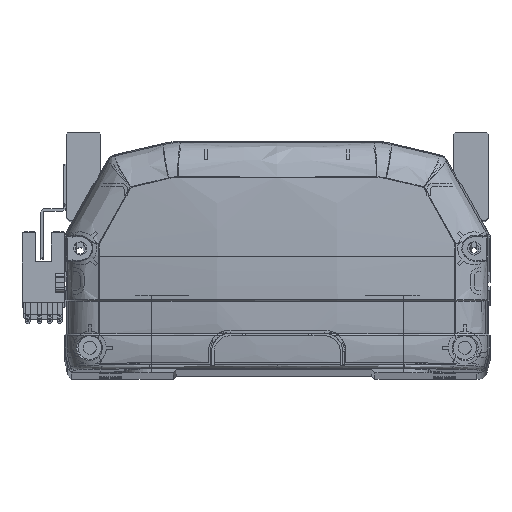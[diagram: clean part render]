
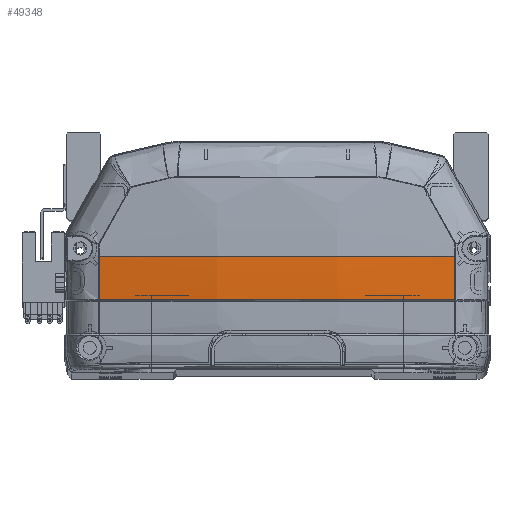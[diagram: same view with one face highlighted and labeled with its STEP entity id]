
A CAD part, top view. The second image highlights one B-rep face of the part: STEP entity #49348.
In plain terms, the highlighted free-form (B-spline) face has degree [3, 3] with [4, 4] control points.
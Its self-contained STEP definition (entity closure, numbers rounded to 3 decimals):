
#2270 = EDGE_CURVE ( 'NONE', #24006, #45317, #10112, .T. ) ;
#2620 = CARTESIAN_POINT ( 'NONE',  ( 47.432, 22.225, -6.377 ) ) ;
#2735 = ORIENTED_EDGE ( 'NONE', *, *, #53510, .F. ) ;
#3050 = CARTESIAN_POINT ( 'NONE',  ( 57.335, 26.762, -4.928 ) ) ;
#3831 = CARTESIAN_POINT ( 'NONE',  ( 19.295, 31.274, -11.535 ) ) ;
#3964 = CIRCLE ( 'NONE', #26593, 6395.966 ) ;
#5724 = VERTEX_POINT ( 'NONE', #15852 ) ;
#5859 = CARTESIAN_POINT ( 'NONE',  ( 56.652, 26.806, -5.044 ) ) ;
#6038 = VERTEX_POINT ( 'NONE', #55850 ) ;
#6653 = CARTESIAN_POINT ( 'NONE',  ( 0., 36., 330.833 ) ) ;
#7551 = CARTESIAN_POINT ( 'NONE',  ( 11.954, 22.225, -9.367 ) ) ;
#7834 = VERTEX_POINT ( 'NONE', #52645 ) ;
#8584 = CARTESIAN_POINT ( 'NONE',  ( -19.295, 36., -11.535 ) ) ;
#8761 = CARTESIAN_POINT ( 'NONE',  ( 19.295, 26.549, -11.419 ) ) ;
#10112 = B_SPLINE_CURVE_WITH_KNOTS ( 'NONE', 3,
 ( #11164, #5859, #46648, #24416 ),
 .UNSPECIFIED., .F., .F.,
 ( 4, 4 ),
 ( 0., 1. ),
 .UNSPECIFIED. ) ;
#10272 = B_SPLINE_CURVE_WITH_KNOTS ( 'NONE', 3,
 ( #18206, #55423, #46546, #14263 ),
 .UNSPECIFIED., .F., .F.,
 ( 4, 4 ),
 ( 0., 1. ),
 .UNSPECIFIED. ) ;
#11164 = CARTESIAN_POINT ( 'NONE',  ( 56.661, 22.225, -4.818 ) ) ;
#11521 = CARTESIAN_POINT ( 'NONE',  ( 8.363, 22.225, -9.48 ) ) ;
#12161 = CARTESIAN_POINT ( 'NONE',  ( 19.295, 21.828, -11.186 ) ) ;
#12627 = DIRECTION ( 'NONE',  ( 0., 0., -1. ) ) ;
#14263 = CARTESIAN_POINT ( 'NONE',  ( -56.661, 22.225, -4.818 ) ) ;
#15852 = CARTESIAN_POINT ( 'NONE',  ( -56.661, 22.225, -4.818 ) ) ;
#16590 = CARTESIAN_POINT ( 'NONE',  ( 56.661, 22.225, -4.818 ) ) ;
#17685 = CARTESIAN_POINT ( 'NONE',  ( -19.295, 26.549, -11.419 ) ) ;
#17895 = EDGE_CURVE ( 'NONE', #45317, #7834, #3964, .T. ) ;
#18206 = CARTESIAN_POINT ( 'NONE',  ( -56.647, 36., -5.158 ) ) ;
#19380 = CIRCLE ( 'NONE', #57762, 340.733 ) ;
#20986 = CARTESIAN_POINT ( 'NONE',  ( -19.28, 22.225, -9.565 ) ) ;
#21185 = CARTESIAN_POINT ( 'NONE',  ( 19.121, 22.225, -9.064 ) ) ;
#22024 = CARTESIAN_POINT ( 'NONE',  ( -19.295, 21.828, -11.186 ) ) ;
#24006 = VERTEX_POINT ( 'NONE', #16590 ) ;
#24416 = CARTESIAN_POINT ( 'NONE',  ( 56.647, 35.969, -5.158 ) ) ;
#25142 = CARTESIAN_POINT ( 'NONE',  ( 56.647, 35.969, -5.158 ) ) ;
#25152 = CARTESIAN_POINT ( 'NONE',  ( -56.661, 22.225, -4.818 ) ) ;
#25449 = ORIENTED_EDGE ( 'NONE', *, *, #2270, .F. ) ;
#25602 = CARTESIAN_POINT ( 'NONE',  ( 57.335, 22.148, -4.7 ) ) ;
#25728 = CARTESIAN_POINT ( 'NONE',  ( 4.761, 22.225, -9.537 ) ) ;
#26593 = AXIS2_PLACEMENT_3D ( 'NONE', #48677, #12627, #44313 ) ;
#30397 = CARTESIAN_POINT ( 'NONE',  ( 57.335, 36., -5.042 ) ) ;
#34259 = CARTESIAN_POINT ( 'NONE',  ( -38.235, 22.225, -7.93 ) ) ;
#35600 =( BOUNDED_SURFACE ( )  B_SPLINE_SURFACE ( 3, 3, ( 
 ( #25602, #3050, #39265, #30397 ),
 ( #12161, #8761, #3831, #44811 ),
 ( #22024, #17685, #45409, #8584 ),
 ( #40430, #54318, #35854, #49379 ) ),
 .UNSPECIFIED., .F., .F., .F. ) 
 B_SPLINE_SURFACE_WITH_KNOTS ( ( 4, 4 ),
 ( 4, 4 ),
 ( 0., 1. ),
 ( 0., 1. ),
 .UNSPECIFIED. ) 
 GEOMETRIC_REPRESENTATION_ITEM ( )  RATIONAL_B_SPLINE_SURFACE ( (
 ( 1., 1., 1., 1.),
 ( 0.99, 0.99, 0.99, 0.99),
 ( 0.99, 0.99, 0.99, 0.99),
 ( 1., 1., 1., 1.) ) ) 
 REPRESENTATION_ITEM ( '' )  SURFACE ( )  );
#35854 = CARTESIAN_POINT ( 'NONE',  ( -57.335, 31.38, -5.042 ) ) ;
#37038 = EDGE_LOOP ( 'NONE', ( #49739, #57830, #25449, #57062, #2735 ) ) ;
#38287 = DIRECTION ( 'NONE',  ( 0., 0., -1. ) ) ;
#39265 = CARTESIAN_POINT ( 'NONE',  ( 57.335, 31.38, -5.042 ) ) ;
#39624 = FACE_OUTER_BOUND ( 'NONE', #37038, .T. ) ;
#40430 = CARTESIAN_POINT ( 'NONE',  ( -57.335, 22.148, -4.7 ) ) ;
#42945 = B_SPLINE_CURVE_WITH_KNOTS ( 'NONE', 3,
 ( #48145, #2620, #52905, #56632, #21185, #7551, #11521, #25728, #57399, #52341, #20986, #34259, #25152 ),
 .UNSPECIFIED., .F., .F.,
 ( 4, 2, 2, 1, 2, 2, 4 ),
 ( 0., 0.25, 0.375, 0.438, 0.469, 0.5, 1. ),
 .UNSPECIFIED. ) ;
#44313 = DIRECTION ( 'NONE',  ( -1., 0., 0. ) ) ;
#44811 = CARTESIAN_POINT ( 'NONE',  ( 19.295, 36., -11.535 ) ) ;
#45317 = VERTEX_POINT ( 'NONE', #25142 ) ;
#45409 = CARTESIAN_POINT ( 'NONE',  ( -19.295, 31.274, -11.535 ) ) ;
#46367 = EDGE_CURVE ( 'NONE', #7834, #6038, #19380, .T. ) ;
#46546 = CARTESIAN_POINT ( 'NONE',  ( -56.652, 26.814, -5.045 ) ) ;
#46648 = CARTESIAN_POINT ( 'NONE',  ( 56.647, 31.387, -5.158 ) ) ;
#48145 = CARTESIAN_POINT ( 'NONE',  ( 56.661, 22.225, -4.818 ) ) ;
#48677 = CARTESIAN_POINT ( 'NONE',  ( 6452.613, 35.969, -5.158 ) ) ;
#49348 = ADVANCED_FACE ( 'NONE', ( #39624 ), #35600, .T. ) ;
#49379 = CARTESIAN_POINT ( 'NONE',  ( -57.335, 36., -5.042 ) ) ;
#49739 = ORIENTED_EDGE ( 'NONE', *, *, #46367, .F. ) ;
#51418 = DIRECTION ( 'NONE',  ( 0., 1., 0. ) ) ;
#52341 = CARTESIAN_POINT ( 'NONE',  ( 1.152, 22.225, -9.568 ) ) ;
#52645 = CARTESIAN_POINT ( 'NONE',  ( 56.647, 36., -5.158 ) ) ;
#52905 = CARTESIAN_POINT ( 'NONE',  ( 38.071, 22.225, -7.566 ) ) ;
#53152 = EDGE_CURVE ( 'NONE', #24006, #5724, #42945, .T. ) ;
#53510 = EDGE_CURVE ( 'NONE', #6038, #5724, #10272, .T. ) ;
#54318 = CARTESIAN_POINT ( 'NONE',  ( -57.335, 26.762, -4.928 ) ) ;
#55423 = CARTESIAN_POINT ( 'NONE',  ( -56.647, 31.405, -5.158 ) ) ;
#55850 = CARTESIAN_POINT ( 'NONE',  ( -56.647, 36., -5.158 ) ) ;
#56632 = CARTESIAN_POINT ( 'NONE',  ( 23.877, 22.225, -8.763 ) ) ;
#57062 = ORIENTED_EDGE ( 'NONE', *, *, #53152, .T. ) ;
#57399 = CARTESIAN_POINT ( 'NONE',  ( 2.357, 22.225, -9.562 ) ) ;
#57762 = AXIS2_PLACEMENT_3D ( 'NONE', #6653, #51418, #38287 ) ;
#57830 = ORIENTED_EDGE ( 'NONE', *, *, #17895, .F. ) ;
